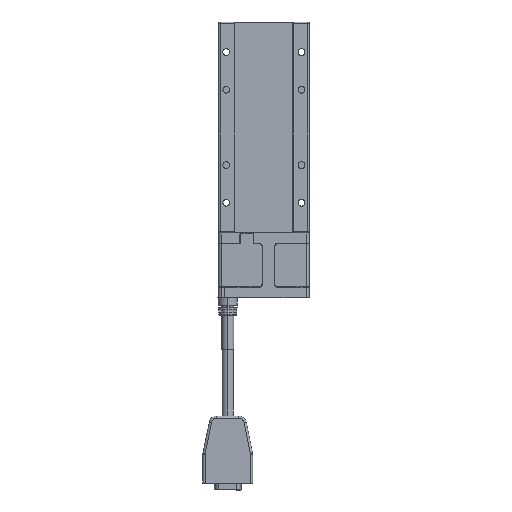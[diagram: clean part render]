
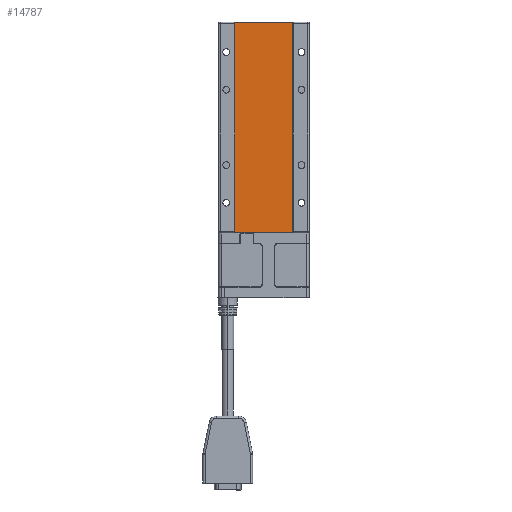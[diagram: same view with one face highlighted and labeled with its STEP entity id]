
A CAD part, front view. The second image highlights one B-rep face of the part: STEP entity #14787.
In plain terms, the highlighted planar face has unit normal (0, -1, 0).
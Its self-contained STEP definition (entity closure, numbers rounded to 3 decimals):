
#479 = ORIENTED_EDGE ( 'NONE', *, *, #51354, .T. ) ;
#1341 = ORIENTED_EDGE ( 'NONE', *, *, #33875, .T. ) ;
#2345 = CARTESIAN_POINT ( 'NONE',  ( -19.3, -10.95, -69.8 ) ) ;
#9512 = VERTEX_POINT ( 'NONE', #68031 ) ;
#14787 = ADVANCED_FACE ( 'NONE', ( #28089 ), #89789, .F. ) ;
#17740 = CARTESIAN_POINT ( 'NONE',  ( 19.3, -10.95, -69.8 ) ) ;
#27813 = LINE ( 'NONE', #17740, #79207 ) ;
#28089 = FACE_OUTER_BOUND ( 'NONE', #87840, .T. ) ;
#28492 = AXIS2_PLACEMENT_3D ( 'NONE', #120021, #118700, #80367 ) ;
#33875 = EDGE_CURVE ( 'NONE', #83145, #71378, #66996, .T. ) ;
#40562 = ORIENTED_EDGE ( 'NONE', *, *, #56028, .T. ) ;
#48847 = DIRECTION ( 'NONE',  ( 0., 0., -1. ) ) ;
#51354 = EDGE_CURVE ( 'NONE', #71378, #9512, #27813, .T. ) ;
#53422 = VECTOR ( 'NONE', #48847, 1000. ) ;
#56028 = EDGE_CURVE ( 'NONE', #9512, #99222, #58815, .T. ) ;
#56723 = LINE ( 'NONE', #87596, #99987 ) ;
#58054 = CARTESIAN_POINT ( 'NONE',  ( 19.3, -10.95, 69.8 ) ) ;
#58815 = LINE ( 'NONE', #70858, #112562 ) ;
#59302 = DIRECTION ( 'NONE',  ( 1., 0., 0. ) ) ;
#60794 = DIRECTION ( 'NONE',  ( 0., 0., 1. ) ) ;
#62537 = EDGE_CURVE ( 'NONE', #99222, #83145, #56723, .T. ) ;
#66996 = LINE ( 'NONE', #107924, #53422 ) ;
#68031 = CARTESIAN_POINT ( 'NONE',  ( 19.3, -10.95, -69.8 ) ) ;
#70275 = CARTESIAN_POINT ( 'NONE',  ( -19.3, -10.95, 69.8 ) ) ;
#70858 = CARTESIAN_POINT ( 'NONE',  ( 19.3, -10.95, 69.8 ) ) ;
#71378 = VERTEX_POINT ( 'NONE', #2345 ) ;
#79207 = VECTOR ( 'NONE', #59302, 1000. ) ;
#80367 = DIRECTION ( 'NONE',  ( 1., 0., 0. ) ) ;
#83145 = VERTEX_POINT ( 'NONE', #70275 ) ;
#87079 = ORIENTED_EDGE ( 'NONE', *, *, #62537, .T. ) ;
#87596 = CARTESIAN_POINT ( 'NONE',  ( 19.3, -10.95, 69.8 ) ) ;
#87840 = EDGE_LOOP ( 'NONE', ( #40562, #87079, #1341, #479 ) ) ;
#89789 = PLANE ( 'NONE',  #28492 ) ;
#99222 = VERTEX_POINT ( 'NONE', #58054 ) ;
#99987 = VECTOR ( 'NONE', #128601, 1000. ) ;
#107924 = CARTESIAN_POINT ( 'NONE',  ( -19.3, -10.95, 69.8 ) ) ;
#112562 = VECTOR ( 'NONE', #60794, 1000. ) ;
#118700 = DIRECTION ( 'NONE',  ( 0., 1., 0. ) ) ;
#120021 = CARTESIAN_POINT ( 'NONE',  ( 19.3, -10.95, -69.8 ) ) ;
#128601 = DIRECTION ( 'NONE',  ( -1., 0., 0. ) ) ;
